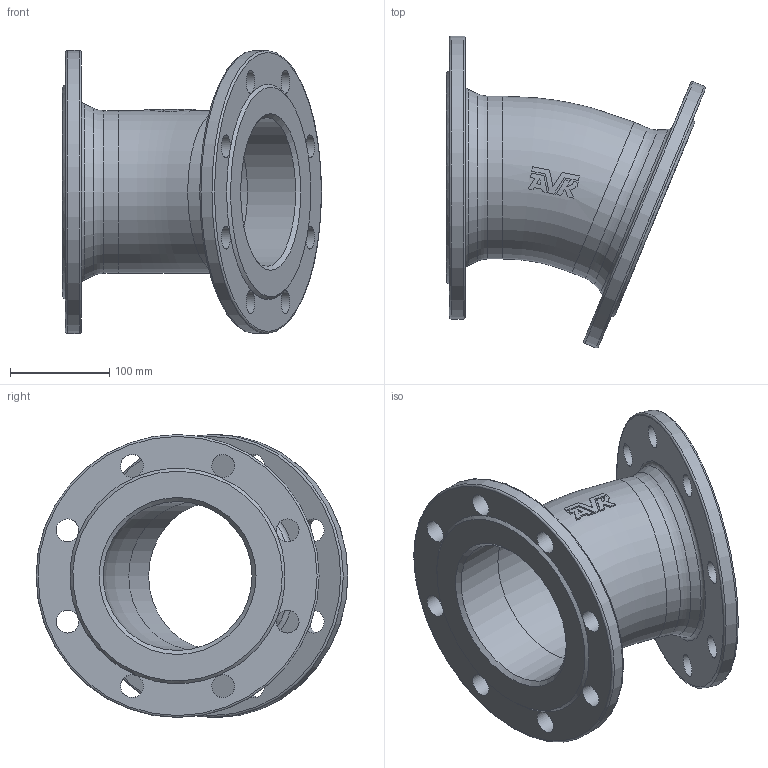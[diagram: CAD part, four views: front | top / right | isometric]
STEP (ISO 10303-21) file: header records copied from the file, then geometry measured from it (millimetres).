
FILE_DESCRIPTION (( 'STEP AP203' ), '1' );
FILE_NAME ('O_712_0210_DN150_1X_REV01.step', '2024-08-15T12:05:47', ( '' ), ( '' ), 'SwSTEP 2.0', 'SolidWorks 2022', '' );
FILE_SCHEMA (( 'CONFIG_CONTROL_DESIGN' ));
Length unit declared in the file: millimetre
Products named in the file (1): O_712_0210_DN150_1X_REV01
Bounding box: 260.85 x 314.1 x 285 mm (x, y, z)
Volume: 2163791.9 mm3; surface area: 395696.6 mm2
Topology: 1 solids, 1 shells, 85 faces, 248 edges, 157 vertices
Faces by surface type: plane 41, cylinder 24, torus 14, cone 6
Full cylindrical faces by diameter (mm): 23 x16, 150 x2, 164 x2, 285 x2
Entity records: 2668 total; most frequent: CARTESIAN_POINT 693, ORIENTED_EDGE 370, DIRECTION 357, EDGE_CURVE 185, AXIS2_PLACEMENT_3D 160, EDGE_LOOP 149, VERTEX_POINT 132, FACE_OUTER_BOUND 117
